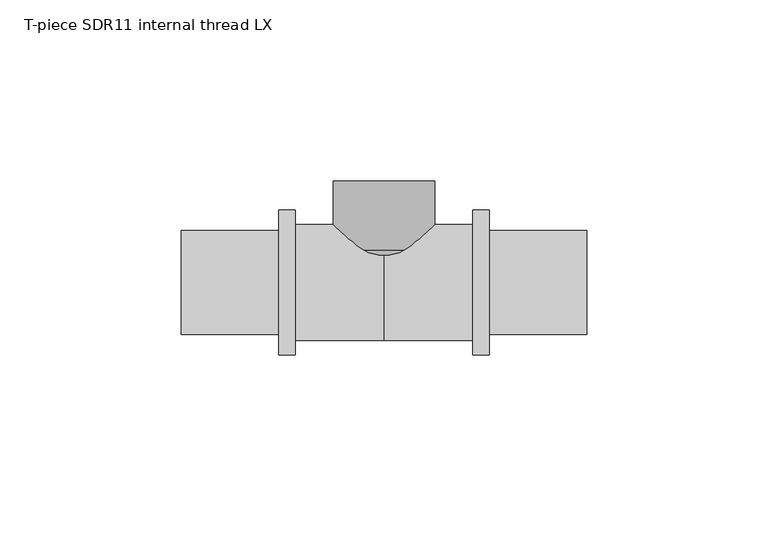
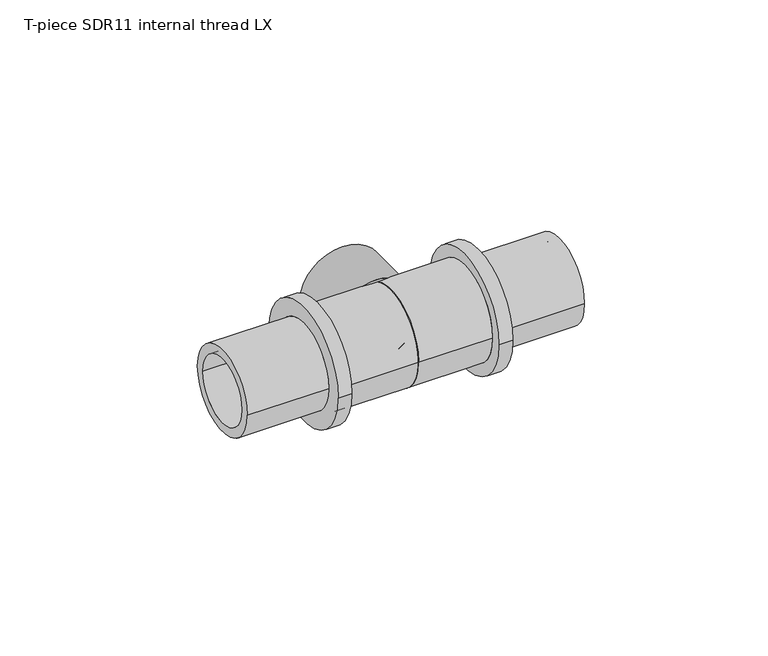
"""IFC4 building model written with IfcOpenShell, lengths in millimetres: pipe fitting geometry, T-piece SDR11 internal thread LX : T-piece LX SDR11 internal LX."""

from ifc_helpers import new_model, si_unit, point, frame, origin, place, context, project, spatial, polyline, circle_curve, ellipse_curve, trimmed, source, transform, mapped, element, save
from ifc_brep_helpers import plane_surface, cylinder_surface, revolved_surface, advanced_brep


def t_piece_sdr11_internal_thread_lx_c276f615(model_context):
    return source(origin(), model_context, "Body", "AdvancedBrep", [
        advanced_brep(
        [(9.9, 9.4, 0.0), (-9.9, 9.4, 0.0), (-9.9, 28.0, 0.0), (9.9, 28.0, 0.0), (0.5, 0.0, 0.0), (-0.5, 0.0, 0.0), (13.2683856, 6.97011, 0.0), (-13.2683856, 6.97011, 0.0), (-6.2982756, 0.0, 0.0), (6.2982756, 0.0, 0.0), (14.0, 8.7363834, 0.0), (-14.0, 8.7363834, 0.0), (14.0, 28.0, 0.0), (-14.0, 28.0, 0.0)],
        [
            (0, 1, circle_curve(frame((0.0, 9.4, 0.0), z_axis=(0.0, -1.0, 0.0), x_axis=(-1.0, 0.0, 0.0)), 9.9)),
            (1, 2),
            (2, 3, circle_curve(frame((0.0, 28.0, 0.0), z_axis=(0.0, 1.0, 0.0), x_axis=(-1.0, 0.0, 0.0)), 9.9)),
            (3, 0),
            (4, 5, circle_curve(frame((0.0, 0.0, 0.0), z_axis=(0.0, -1.0, 0.0), x_axis=(-1.0, 0.0, 0.0)), 0.5)),
            (5, 1),
            (0, 4),
            (6, 7, circle_curve(frame((0.0, 6.97011, 0.0), z_axis=(0.0, -1.0, 0.0), x_axis=(-1.0, 0.0, 0.0)), 13.2683856)),
            (7, 8),
            (8, 9, circle_curve(frame((0.0, 0.0, 0.0), z_axis=(0.0, 1.0, 0.0), x_axis=(-1.0, 0.0, 0.0)), 6.2982756)),
            (9, 6),
            (10, 11, circle_curve(frame((0.0, 8.7363834, 0.0), z_axis=(0.0, -1.0, 0.0), x_axis=(-1.0, 0.0, 0.0)), 14.0)),
            (11, 7, circle_curve(frame((-9.9, 9.4, 0.0), z_axis=(0.0, 0.0, 1.0), x_axis=(0.0, 1.0, 0.0)), 4.1533585)),
            (6, 10, circle_curve(frame((9.9, 9.4, 0.0), z_axis=(0.0, 0.0, 1.0), x_axis=(0.0, 1.0, 0.0)), 4.1533585)),
            (12, 13, circle_curve(frame((0.0, 28.0, 0.0), z_axis=(0.0, -1.0, 0.0), x_axis=(-1.0, 0.0, 0.0)), 14.0)),
            (13, 11),
            (10, 12),
            (12, 13, circle_curve(frame((0.0, 28.0, 0.0), z_axis=(0.0, 1.0, 0.0), x_axis=(1.0, 0.0, 0.0)), 14.0)),
            (2, 3, circle_curve(frame((0.0, 28.0, 0.0), z_axis=(0.0, -1.0, 0.0), x_axis=(1.0, 0.0, 0.0)), 9.9)),
            (1, 0, circle_curve(frame((0.0, 9.4, 0.0), z_axis=(0.0, -1.0, 0.0), x_axis=(1.0, 0.0, 0.0)), 9.9)),
            (5, 4, circle_curve(frame((0.0, 0.0, 0.0), z_axis=(0.0, -1.0, 0.0), x_axis=(1.0, 0.0, 0.0)), 0.5)),
            (8, 9, circle_curve(frame((0.0, 0.0, 0.0), z_axis=(0.0, -1.0, 0.0), x_axis=(1.0, 0.0, 0.0)), 6.2982756)),
            (7, 6, circle_curve(frame((0.0, 6.97011, 0.0), z_axis=(0.0, -1.0, 0.0), x_axis=(1.0, 0.0, 0.0)), 13.2683856)),
            (11, 10, circle_curve(frame((0.0, 8.7363834, 0.0), z_axis=(0.0, -1.0, 0.0), x_axis=(1.0, 0.0, 0.0)), 14.0)),
        ],
        [
            revolved_surface(polyline([(-9.9, 28.0, 0.0), (-9.9, 9.4, 0.0)]), (0.0, 0.0, 0.0), (0.0, 1.0, 0.0)),
            revolved_surface(polyline([(-9.9, 9.4, 0.0), (-0.5, 0.0, 0.0)]), (0.0, 0.0, 0.0), (0.0, 1.0, 0.0)),
            revolved_surface(polyline([(-6.2982756, 0.0, 0.0), (-13.2683856, 6.97011, 0.0)]), (0.0, 0.0, 0.0), (0.0, 1.0, 0.0)),
            revolved_surface(trimmed(ellipse_curve(frame((-9.9, 9.4, 0.0), z_axis=(0.0, 0.0, -1.0), x_axis=(0.0, 1.0, 0.0)), 4.1533585, 4.1533585), [point((-13.2683856, 6.97011, 0.0))], [point((-14.0, 8.7363834, 0.0))], True, "CARTESIAN"), (0.0, 0.0, 0.0), (0.0, 1.0, 0.0)),
            cylinder_surface(frame((0.0, 0.0, 0.0), z_axis=(0.0, 1.0, 0.0), x_axis=(-1.0, 0.0, 0.0)), 14.0),
            plane_surface(frame((0.0, 28.0, 0.0), z_axis=(0.0, 1.0, 0.0), x_axis=(1.0, 0.0, 0.0))),
            revolved_surface(polyline([(9.9, 28.0, 0.0), (9.9, 9.4, 0.0)]), (0.0, 0.0, 0.0), (0.0, 1.0, 0.0)),
            revolved_surface(polyline([(9.9, 9.4, 0.0), (0.5, 0.0, 0.0)]), (0.0, 0.0, 0.0), (0.0, 1.0, 0.0)),
            plane_surface(frame((0.0, 0.0, 0.0), z_axis=(0.0, -1.0, 0.0), x_axis=(1.0, 0.0, 0.0))),
            revolved_surface(polyline([(6.2982756, 0.0, 0.0), (13.2683856, 6.97011, 0.0)]), (0.0, 0.0, 0.0), (0.0, 1.0, 0.0)),
            revolved_surface(trimmed(ellipse_curve(frame((9.9, 9.4, 0.0), z_axis=(0.0, 0.0, 1.0), x_axis=(0.0, 1.0, 0.0)), 4.1533585, 4.1533585), [point((13.2683856, 6.97011, 0.0))], [point((14.0, 8.7363834, 0.0))], True, "CARTESIAN"), (0.0, 0.0, 0.0), (0.0, 1.0, 0.0)),
            cylinder_surface(frame((0.0, 0.0, 0.0), z_axis=(0.0, 1.0, 0.0), x_axis=(1.0, 0.0, 0.0)), 14.0),
        ],
        [
            (0, [[1, 2, 3, 4]]),
            (1, [[5, 6, -1, 7]]),
            (2, [[8, 9, 10, 11]]),
            (3, [[12, 13, -8, 14]]),
            (4, [[15, 16, -12, 17]]),
            (5, [[18, -15], [19, -3]]),
            (6, [[20, -4, -19, -2]]),
            (7, [[21, -7, -20, -6]]),
            (8, [[22, -10], [-21, -5]]),
            (9, [[23, -11, -22, -9]]),
            (10, [[24, -14, -23, -13]]),
            (11, [[-18, -17, -24, -16]]),
        ],
    ),
        advanced_brep(
        [(29.0, 20.0, 0.0), (29.0, -20.0, 0.0), (24.5, -20.0, 0.0), (24.5, 20.0, 0.0), (56.0, 14.35, 0.0), (56.0, -14.35, 0.0), (29.0, -14.35, 0.0), (29.0, 14.35, 0.0), (0.0, 11.2, 0.0), (0.0, -11.2, 0.0), (56.0, -11.2, 0.0), (56.0, 11.2, 0.0), (24.5, 16.0, 0.0), (24.5, -16.0, 0.0), (0.0, -16.0, 0.0), (0.0, 16.0, 0.0)],
        [
            (0, 1, circle_curve(frame((29.0, 0.0, 0.0), z_axis=(-1.0, 0.0, 0.0), x_axis=(0.0, -1.0, 0.0)), 20.0)),
            (1, 2),
            (2, 3, circle_curve(frame((24.5, 0.0, 0.0), z_axis=(1.0, 0.0, 0.0), x_axis=(0.0, -1.0, 0.0)), 20.0)),
            (3, 0),
            (4, 5, circle_curve(frame((56.0, 0.0, 0.0), z_axis=(-1.0, 0.0, 0.0), x_axis=(0.0, -1.0, 0.0)), 14.35)),
            (5, 6),
            (6, 7, circle_curve(frame((29.0, 0.0, 0.0), z_axis=(1.0, 0.0, 0.0), x_axis=(0.0, -1.0, 0.0)), 14.35)),
            (7, 4),
            (8, 9, circle_curve(frame((0.0, 0.0, 0.0), z_axis=(-1.0, 0.0, 0.0), x_axis=(0.0, -1.0, 0.0)), 11.2)),
            (9, 10),
            (10, 11, circle_curve(frame((56.0, 0.0, 0.0), z_axis=(1.0, 0.0, 0.0), x_axis=(0.0, -1.0, 0.0)), 11.2)),
            (11, 8),
            (12, 13, circle_curve(frame((24.5, 0.0, 0.0), z_axis=(-1.0, 0.0, 0.0), x_axis=(0.0, -1.0, 0.0)), 16.0)),
            (13, 14),
            (14, 15, circle_curve(frame((0.0, 0.0, 0.0), z_axis=(1.0, 0.0, 0.0), x_axis=(0.0, -1.0, 0.0)), 16.0)),
            (15, 12),
            (1, 0, circle_curve(frame((29.0, 0.0, 0.0), z_axis=(-1.0, 0.0, 0.0), x_axis=(0.0, 1.0, 0.0)), 20.0)),
            (3, 2, circle_curve(frame((24.5, 0.0, 0.0), z_axis=(1.0, 0.0, 0.0), x_axis=(0.0, 1.0, 0.0)), 20.0)),
            (6, 7, circle_curve(frame((29.0, 0.0, 0.0), z_axis=(-1.0, 0.0, 0.0), x_axis=(0.0, 1.0, 0.0)), 14.35)),
            (5, 4, circle_curve(frame((56.0, 0.0, 0.0), z_axis=(-1.0, 0.0, 0.0), x_axis=(0.0, 1.0, 0.0)), 14.35)),
            (10, 11, circle_curve(frame((56.0, 0.0, 0.0), z_axis=(-1.0, 0.0, 0.0), x_axis=(0.0, 1.0, 0.0)), 11.2)),
            (9, 8, circle_curve(frame((0.0, 0.0, 0.0), z_axis=(-1.0, 0.0, 0.0), x_axis=(0.0, 1.0, 0.0)), 11.2)),
            (14, 15, circle_curve(frame((0.0, 0.0, 0.0), z_axis=(-1.0, 0.0, 0.0), x_axis=(0.0, 1.0, 0.0)), 16.0)),
            (13, 12, circle_curve(frame((24.5, 0.0, 0.0), z_axis=(-1.0, 0.0, 0.0), x_axis=(0.0, 1.0, 0.0)), 16.0)),
        ],
        [
            cylinder_surface(frame((0.0, 0.0, 0.0), z_axis=(1.0, 0.0, 0.0), x_axis=(0.0, -1.0, 0.0)), 20.0),
            cylinder_surface(frame((0.0, 0.0, 0.0), z_axis=(1.0, 0.0, 0.0), x_axis=(0.0, -1.0, 0.0)), 14.35),
            revolved_surface(polyline([(56.0, -11.2, 0.0), (0.0, -11.2, 0.0)]), (0.0, 0.0, 0.0), (1.0, 0.0, 0.0)),
            cylinder_surface(frame((0.0, 0.0, 0.0), z_axis=(1.0, 0.0, 0.0), x_axis=(0.0, -1.0, 0.0)), 16.0),
            cylinder_surface(frame((0.0, 0.0, 0.0), z_axis=(1.0, 0.0, 0.0), x_axis=(0.0, 1.0, 0.0)), 20.0),
            plane_surface(frame((29.0, 0.0, 0.0), z_axis=(1.0, 0.0, 0.0), x_axis=(0.0, 1.0, 0.0))),
            cylinder_surface(frame((0.0, 0.0, 0.0), z_axis=(1.0, 0.0, 0.0), x_axis=(0.0, 1.0, 0.0)), 14.35),
            plane_surface(frame((56.0, 0.0, 0.0), z_axis=(1.0, 0.0, 0.0), x_axis=(0.0, 1.0, 0.0))),
            revolved_surface(polyline([(56.0, 11.2, 0.0), (0.0, 11.2, 0.0)]), (0.0, 0.0, 0.0), (1.0, 0.0, 0.0)),
            plane_surface(frame((0.0, 0.0, 0.0), z_axis=(-1.0, 0.0, 0.0), x_axis=(0.0, 1.0, 0.0))),
            cylinder_surface(frame((0.0, 0.0, 0.0), z_axis=(1.0, 0.0, 0.0), x_axis=(0.0, 1.0, 0.0)), 16.0),
            plane_surface(frame((24.5, 0.0, 0.0), z_axis=(-1.0, 0.0, 0.0), x_axis=(0.0, 1.0, 0.0))),
        ],
        [
            (0, [[1, 2, 3, 4]]),
            (1, [[5, 6, 7, 8]]),
            (2, [[9, 10, 11, 12]]),
            (3, [[13, 14, 15, 16]]),
            (4, [[17, -4, 18, -2]]),
            (5, [[-17, -1], [19, -7]]),
            (6, [[20, -8, -19, -6]]),
            (7, [[-20, -5], [21, -11]]),
            (8, [[22, -12, -21, -10]]),
            (9, [[23, -15], [-22, -9]]),
            (10, [[24, -16, -23, -14]]),
            (11, [[-18, -3], [-24, -13]]),
        ],
    ),
        advanced_brep(
        [(0.0, 16.0, 0.0), (0.0, -16.0, 0.0), (-24.5, -16.0, 0.0), (-24.5, 16.0, 0.0), (-56.0, 11.2, 0.0), (-56.0, -11.2, 0.0), (0.0, -11.2, 0.0), (0.0, 11.2, 0.0), (-29.0, 14.35, 0.0), (-29.0, -14.35, 0.0), (-56.0, -14.35, 0.0), (-56.0, 14.35, 0.0), (-24.5, 20.0, 0.0), (-24.5, -20.0, 0.0), (-29.0, -20.0, 0.0), (-29.0, 20.0, 0.0)],
        [
            (0, 1, circle_curve(frame((0.0, 0.0, 0.0), z_axis=(-1.0, 0.0, 0.0), x_axis=(0.0, -1.0, 0.0)), 16.0)),
            (1, 2),
            (2, 3, circle_curve(frame((-24.5, 0.0, 0.0), z_axis=(1.0, 0.0, 0.0), x_axis=(0.0, -1.0, 0.0)), 16.0)),
            (3, 0),
            (4, 5, circle_curve(frame((-56.0, 0.0, 0.0), z_axis=(-1.0, 0.0, 0.0), x_axis=(0.0, -1.0, 0.0)), 11.2)),
            (5, 6),
            (6, 7, circle_curve(frame((0.0, 0.0, 0.0), z_axis=(1.0, 0.0, 0.0), x_axis=(0.0, -1.0, 0.0)), 11.2)),
            (7, 4),
            (8, 9, circle_curve(frame((-29.0, 0.0, 0.0), z_axis=(-1.0, 0.0, 0.0), x_axis=(0.0, -1.0, 0.0)), 14.35)),
            (9, 10),
            (10, 11, circle_curve(frame((-56.0, 0.0, 0.0), z_axis=(1.0, 0.0, 0.0), x_axis=(0.0, -1.0, 0.0)), 14.35)),
            (11, 8),
            (12, 13, circle_curve(frame((-24.5, 0.0, 0.0), z_axis=(-1.0, 0.0, 0.0), x_axis=(0.0, -1.0, 0.0)), 20.0)),
            (13, 14),
            (14, 15, circle_curve(frame((-29.0, 0.0, 0.0), z_axis=(1.0, 0.0, 0.0), x_axis=(0.0, -1.0, 0.0)), 20.0)),
            (15, 12),
            (12, 13, circle_curve(frame((-24.5, 0.0, 0.0), z_axis=(1.0, 0.0, 0.0), x_axis=(0.0, 1.0, 0.0)), 20.0)),
            (2, 3, circle_curve(frame((-24.5, 0.0, 0.0), z_axis=(-1.0, 0.0, 0.0), x_axis=(0.0, 1.0, 0.0)), 16.0)),
            (1, 0, circle_curve(frame((0.0, 0.0, 0.0), z_axis=(-1.0, 0.0, 0.0), x_axis=(0.0, 1.0, 0.0)), 16.0)),
            (6, 7, circle_curve(frame((0.0, 0.0, 0.0), z_axis=(-1.0, 0.0, 0.0), x_axis=(0.0, 1.0, 0.0)), 11.2)),
            (5, 4, circle_curve(frame((-56.0, 0.0, 0.0), z_axis=(-1.0, 0.0, 0.0), x_axis=(0.0, 1.0, 0.0)), 11.2)),
            (10, 11, circle_curve(frame((-56.0, 0.0, 0.0), z_axis=(-1.0, 0.0, 0.0), x_axis=(0.0, 1.0, 0.0)), 14.35)),
            (9, 8, circle_curve(frame((-29.0, 0.0, 0.0), z_axis=(-1.0, 0.0, 0.0), x_axis=(0.0, 1.0, 0.0)), 14.35)),
            (14, 15, circle_curve(frame((-29.0, 0.0, 0.0), z_axis=(-1.0, 0.0, 0.0), x_axis=(0.0, 1.0, 0.0)), 20.0)),
        ],
        [
            cylinder_surface(frame((0.0, 0.0, 0.0), z_axis=(1.0, 0.0, 0.0), x_axis=(0.0, -1.0, 0.0)), 16.0),
            revolved_surface(polyline([(0.0, -11.2, 0.0), (-56.0, -11.2, 0.0)]), (0.0, 0.0, 0.0), (1.0, 0.0, 0.0)),
            cylinder_surface(frame((0.0, 0.0, 0.0), z_axis=(1.0, 0.0, 0.0), x_axis=(0.0, -1.0, 0.0)), 14.35),
            cylinder_surface(frame((0.0, 0.0, 0.0), z_axis=(1.0, 0.0, 0.0), x_axis=(0.0, -1.0, 0.0)), 20.0),
            plane_surface(frame((-24.5, 0.0, 0.0), z_axis=(1.0, 0.0, 0.0), x_axis=(0.0, 1.0, 0.0))),
            cylinder_surface(frame((0.0, 0.0, 0.0), z_axis=(1.0, 0.0, 0.0), x_axis=(0.0, 1.0, 0.0)), 16.0),
            plane_surface(frame((0.0, 0.0, 0.0), z_axis=(1.0, 0.0, 0.0), x_axis=(0.0, 1.0, 0.0))),
            revolved_surface(polyline([(0.0, 11.2, 0.0), (-56.0, 11.2, 0.0)]), (0.0, 0.0, 0.0), (1.0, 0.0, 0.0)),
            plane_surface(frame((-56.0, 0.0, 0.0), z_axis=(-1.0, 0.0, 0.0), x_axis=(0.0, 1.0, 0.0))),
            cylinder_surface(frame((0.0, 0.0, 0.0), z_axis=(1.0, 0.0, 0.0), x_axis=(0.0, 1.0, 0.0)), 14.35),
            plane_surface(frame((-29.0, 0.0, 0.0), z_axis=(-1.0, 0.0, 0.0), x_axis=(0.0, 1.0, 0.0))),
            cylinder_surface(frame((0.0, 0.0, 0.0), z_axis=(1.0, 0.0, 0.0), x_axis=(0.0, 1.0, 0.0)), 20.0),
        ],
        [
            (0, [[1, 2, 3, 4]]),
            (1, [[5, 6, 7, 8]]),
            (2, [[9, 10, 11, 12]]),
            (3, [[13, 14, 15, 16]]),
            (4, [[17, -13], [18, -3]]),
            (5, [[19, -4, -18, -2]]),
            (6, [[-19, -1], [20, -7]]),
            (7, [[21, -8, -20, -6]]),
            (8, [[22, -11], [-21, -5]]),
            (9, [[23, -12, -22, -10]]),
            (10, [[24, -15], [-23, -9]]),
            (11, [[-17, -16, -24, -14]]),
        ],
    ),
    ])


if __name__ == "__main__":
    model = new_model("IFC4")
    model_context = context("Model", 3, world=origin())
    ifc_project = project(units=[si_unit("LENGTHUNIT", "METRE", prefix="MILLI")], contexts=[model_context])
    site = spatial("IfcSite", under=ifc_project)
    building = spatial("IfcBuilding", under=site)
    placement = place(None, origin())
    t_piece_sdr11_internal_thread_lx_shape = t_piece_sdr11_internal_thread_lx_c276f615(model_context)
    element("IfcPipeFitting", 1, ObjectType="T-piece SDR11 internal thread LX : T-piece LX SDR11 internal LX", at=placement, inside=building, context=model_context, shape_type="MappedRepresentation", body=[
        mapped(t_piece_sdr11_internal_thread_lx_shape, transform((0.0, 0.0, 0.0), x_axis=(1.0, 0.0, 0.0), y_axis=(0.0, 1.0, 0.0), z_axis=(0.0, 0.0, 1.0))),
    ])
    save(model, "model.ifc")
